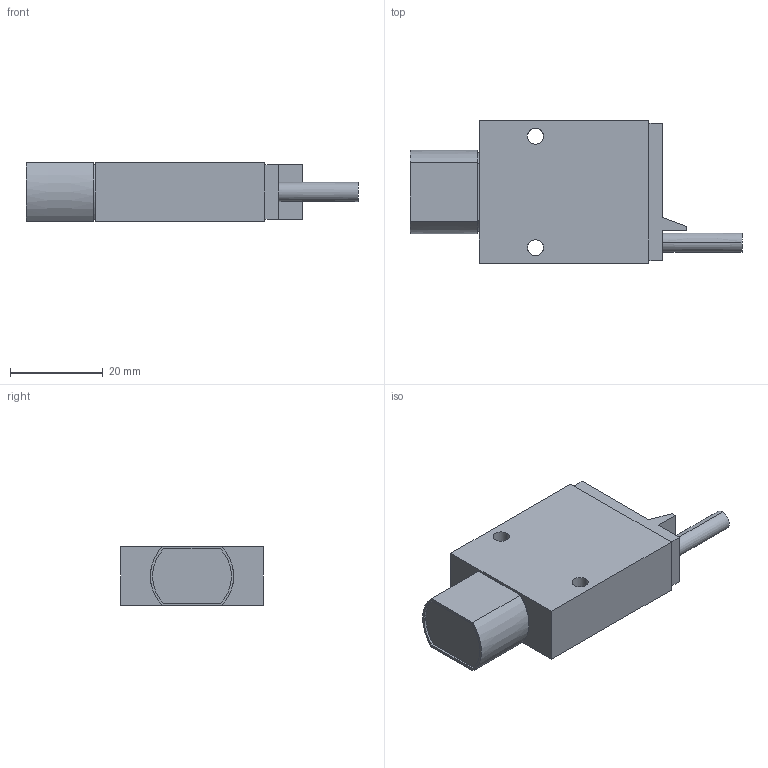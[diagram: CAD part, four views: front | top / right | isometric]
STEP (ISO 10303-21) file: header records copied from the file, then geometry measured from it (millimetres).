
FILE_DESCRIPTION((''),'2;1');
FILE_NAME('42KL_DC','2010-04-20T',('Administrator'),(''),'PRO/ENGINEER BY PARAMETRIC TECHNOLOGY CORPORATION, 2006010','PRO/ENGINEER BY PARAMETRIC TECHNOLOGY CORPORATION, 2006010','');
FILE_SCHEMA(('CONFIG_CONTROL_DESIGN'));
Length unit declared in the file: millimetre
Products named in the file (1): 42KL_DC
Bounding box: 71.7 x 30.7 x 12.7 mm (x, y, z)
Surface area: 5672.7 mm2 (no closed solid volume)
Topology: 0 solids, 0 shells, 37 faces, 264 edges, 342 vertices
Faces by surface type: bspline 37
Entity records: 3458 total; most frequent: CARTESIAN_POINT 1359, DIRECTION 374, TRIMMED_CURVE 330, VECTOR 288, LINE 288, DEFINITIONAL_REPRESENTATION 180, PCURVE 180, COMPOSITE_CURVE_SEGMENT 180
